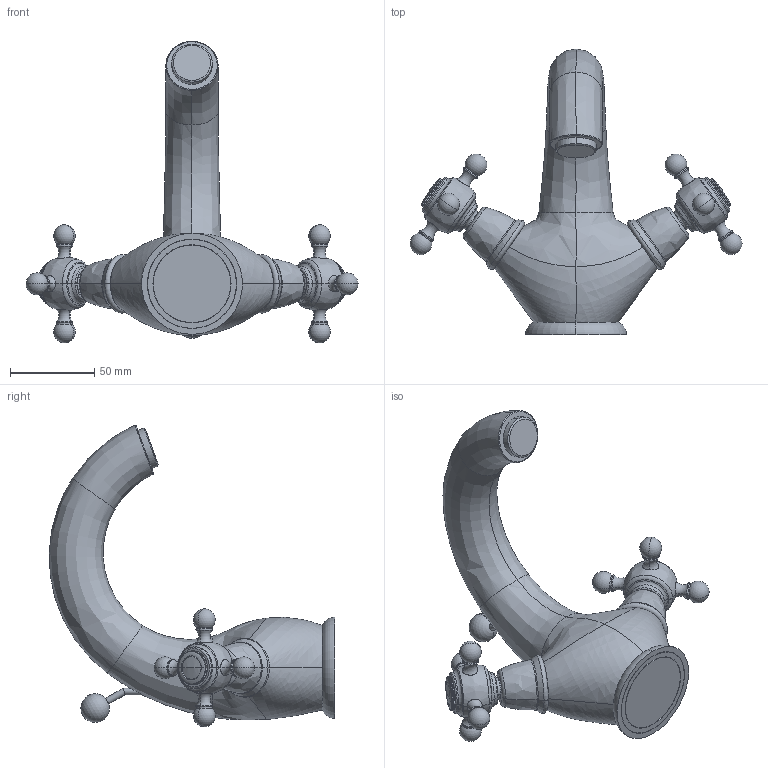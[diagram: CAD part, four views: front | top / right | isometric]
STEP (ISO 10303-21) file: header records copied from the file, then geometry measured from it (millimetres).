
FILE_DESCRIPTION((''),'2;1');
FILE_NAME('F5091_2_FILE_3S','2013-07-05T',('ivanv'),(''),'PRO/ENGINEER BY PARAMETRIC TECHNOLOGY CORPORATION, 2012130','PRO/ENGINEER BY PARAMETRIC TECHNOLOGY CORPORATION, 2012130','');
FILE_SCHEMA(('CONFIG_CONTROL_DESIGN'));
Length unit declared in the file: millimetre
Products named in the file (1): F5091_2_FILE_3S
Bounding box: 196.98 x 169.46 x 178.96 mm (x, y, z)
Volume: 496157.7 mm3; surface area: 71362.4 mm2
Topology: 1 solids, 2 shells, 746 faces, 2022 edges, 1285 vertices
Faces by surface type: plane 346, cylinder 222, torus 104, bspline 32, sphere 22, cone 20
Entity records: 32284 total; most frequent: CARTESIAN_POINT 13901, ORIENTED_EDGE 3998, DIRECTION 3725, EDGE_CURVE 1999, AXIS2_PLACEMENT_3D 1429, VERTEX_POINT 1283, VECTOR 867, LINE 867
